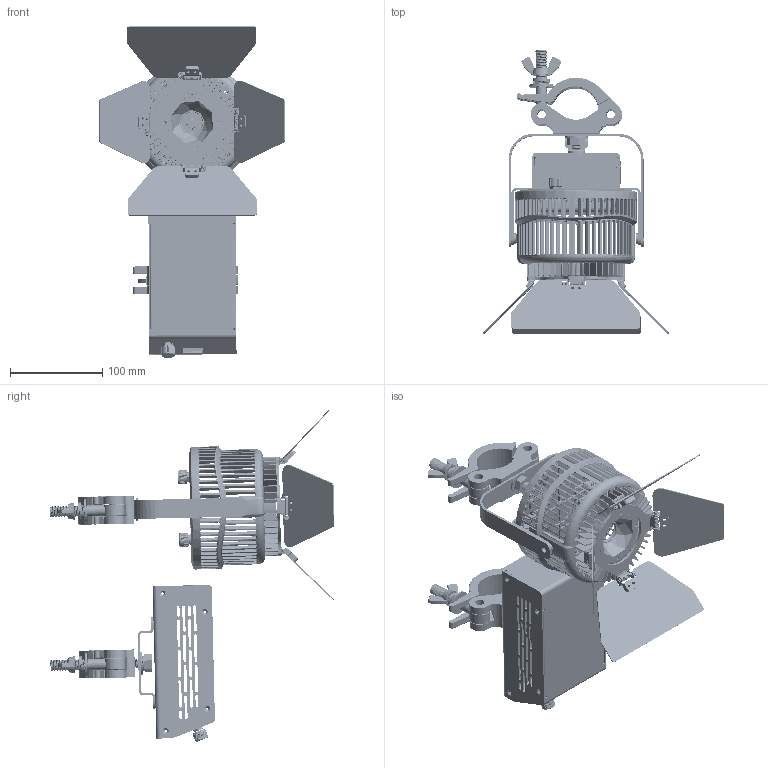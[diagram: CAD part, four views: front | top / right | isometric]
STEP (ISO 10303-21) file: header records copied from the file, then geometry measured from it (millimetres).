
FILE_DESCRIPTION (( 'STEP AP214' ), '1' );
FILE_NAME ('W500BD-CLP-PSX.STEP', '2024-02-01T20:11:18', ( '' ), ( '' ), 'SwSTEP 2.0', 'SolidWorks 2022', '' );
FILE_SCHEMA (( 'AUTOMOTIVE_DESIGN' ));
Length unit declared in the file: millimetre
Products named in the file (47): 5022398-XXX_A1_Plug for W Series, 19x10x9.4mm_-002(Black); 5120540-XXX_A1_Rear Panel, OD=133, T=13.65mm, W-Series_5120531-001 W500; 5020919-XXX_A5_Spacer, Pitch 6.0, Light Shielding, Barn Door___; 5022447-XXX_A2_W Series, 15F YOKE PART-B, 146.2x122.5x20mm___; 5020897-2010216520_ _Helical Spring Washer Customized___; 5022452-001_A3_Reflector Sink Holder, D108x14.35(H)mm (-002 is White)_-001(Black); 5120531-XXX_A4_Assembly BOM, Light Mounting Type for Yoke_TEX; 5022432-XXX_A2_250W Power Box Cover (TEX-PSX TYPE), 165x92x62.5(H)mm___; 5022358-1051452003_ _Wave Spring Washer, ID10.5 OD14.5 H2.0 T0.3, Black___; 5022341-XXX_A1_Minor Leaf of 3 inch Barndoor, L96, W77, T1.1___; 5021948_A1_Narrow Reflector, OD=54, T=15.6MM___; 5022445-XXX_A1_DC Plug for W Series, D=12mm_-002(Black); 62280-1363006_ _SCREW, M3x6mmL, PAN HEAD TORX WITH THREAD LOCK___; 5022693-XXX_A1_Bracket, 98.85x25x17.5, T=2.5mm___; 62280-647A030_ _SCREW, M10xP1.5 L30mm_Original; 5022427-XXX_A4_250W Power Box FRAME (TG&TEX&CLP TYPE), 165x95x64mm___; 5020734-XXX_A3_Spacer, Hinge, Barn Door_-001_Black; 5022340-XXX_A1_Major Leaf of 3 inch Barndoor, L140, W77, T1.1___; 5022185_A3_Frame, T=1.5mm AL5052 Black, 24x20x65.15mm___; 5120625-XXX_A1_Aluminum lamp hook processing square hole_For 5120625-XXX; 5120539-XXX_A1_Housing, OD=133, ID=121, T=78.1mm, For Reflector, Without Logo___; 5020893-3211020005_ _Flat Washer Customized, Nylon Black, ID11mm OD20mm T0.5mm___; 62280-231A030_ _SCREW, M10xP1.5 L30mm_Original; 62280-1343006_ _SCREW, PAN HEAD TROX W-THD LOCK, SUS-410, BLACK, M3xL6mm___; 5120561_A1_Frame, T=1.5mm AL5052 Black, 17.5x20x65.15mm___; 5120529-XXX_A1_Assembly BOM, W500 Light Engine_Finish; 5022348-104_ _Toothed Washer Series, M3___; 5021926-XXX_A2_KNOB, 18T, OD=14.9, ID=6, L=10MM_C1; 5021416_A1_Hex Nut, M10xP1.5, T8 SUS___; 5021287_A2_Toothed Lock Washer M6, OD11 ID6.4 T0.55, SUS___; 5120530-XXX_A1_Assembly BOM, W500 Reflector Type_Reflector - 55D-BD; 5020893-2010525020_ _Flat Washer, M10, ID10.5 OD25.0, T2 SUS 304___; 5020655-011_A4_Hinge, Assembly, Barndoor Video Light, Pitch6.0, Black_01; 5020757-002_A2_VR Washer, Kessil A360 Aquarium Light___; 5020655-012_A4_Hinge, Assembly, Barndoor Video Light, Pitch7.4, Black_01; 5020757-001_A1_VR Nut, Kessil A360 Aquarium Light___; W500BD-CLP-PSX; 5022189_A1_Plate, OD=48, ID=23, T=2.0mm___; 62432-11100100140040_ _Hex Nuts Customized, M10 P1.0 S14 T4 W-Zinc___; 5021736-006_A2_Aluminum Hook, M10, Black_For W500-CLP-PS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
Assembly tree (70 placements, depth 4):
  W500BD-CLP-PSX
    5120519-XXX_A3_Assembly BOM, Kessil W500 Power Box_TON(US)-PS
      5022427-XXX_A4_250W Power Box FRAME (TG&TEX&CLP TYPE), 165x95x64mm___
      5021736-006_A2_Aluminum Hook, M10, Black_For W500-CLP-PS
      62280-231A030_ _SCREW, M10xP1.5 L30mm_Original
      5022693-XXX_A1_Bracket, 98.85x25x17.5, T=2.5mm___
      5020893-2010525020_ _Flat Washer, M10, ID10.5 OD25.0, T2 SUS 304___
      5020897-2010216520_ _Helical Spring Washer Customized___
      5021416_A1_Hex Nut, M10xP1.5, T8 SUS___
      5022432-XXX_A2_250W Power Box Cover (TEX-PSX TYPE), 165x92x62.5(H)mm___
      5020757-002_A2_VR Washer, Kessil A360 Aquarium Light___
      5020757-001_A1_VR Nut, Kessil A360 Aquarium Light___
      5021926-XXX_A2_KNOB, 18T, OD=14.9, ID=6, L=10MM_C1
    5010177-XXX_A2_Assembly BOM, Kessil W500_55D-BD-[TEX]
      5120529-XXX_A1_Assembly BOM, W500 Light Engine_Finish
        5120540-XXX_A1_Rear Panel, OD=133, T=13.65mm, W-Series_5120531-001 W500
        5022398-XXX_A1_Plug for W Series, 19x10x9.4mm_-002(Black)
        5022445-XXX_A1_DC Plug for W Series, D=12mm_-002(Black)
        5022185_A3_Frame, T=1.5mm AL5052 Black, 24x20x65.15mm___
        5120561_A1_Frame, T=1.5mm AL5052 Black, 17.5x20x65.15mm___
        5022348-104_ _Toothed Washer Series, M3___  x2
        62280-1313006_ _SCREW, M3x6mmL, PAN HEAD TORX WITH THREAD LOCK___  x4
        5021924_A2_BOLT SCREW, M3.0, L=19.2MM___  x2
        5020757-002_A2_VR Washer, Kessil A360 Aquarium Light___  x2
        5020757-001_A1_VR Nut, Kessil A360 Aquarium Light___  x2
        5021926-XXX_A2_KNOB, 18T, OD=14.9, ID=6, L=10MM_C1  x2
        62280-1363006_ _SCREW, M3x6mmL, PAN HEAD TORX WITH THREAD LOCK___  x2
      5120530-XXX_A1_Assembly BOM, W500 Reflector Type_Reflector - 55D-BD
        5120539-XXX_A1_Housing, OD=133, ID=121, T=78.1mm, For Reflector, Without Logo___
        5022189_A1_Plate, OD=48, ID=23, T=2.0mm___
        62280-1343006_ _SCREW, PAN HEAD TROX W-THD LOCK, SUS-410, BLACK, M3xL6mm___  x2
        5022452-001_A3_Reflector Sink Holder, D108x14.35(H)mm (-002 is White)_-001(Black)
        5021948_A1_Narrow Reflector, OD=54, T=15.6MM___
        5020655-011_A4_Hinge, Assembly, Barndoor Video Light, Pitch6.0, Black_01  x2
        5020919-XXX_A5_Spacer, Pitch 6.0, Light Shielding, Barn Door___  x2
        5022341-XXX_A1_Minor Leaf of 3 inch Barndoor, L96, W77, T1.1___  x2
        5020655-012_A4_Hinge, Assembly, Barndoor Video Light, Pitch7.4, Black_01  x2
        5020921-XXX_A5_Spacer, Pitch 7.4, Light Shielding, Barn Door___  x2
        5020734-XXX_A3_Spacer, Hinge, Barn Door_-001_Black  x2
        5022340-XXX_A1_Major Leaf of 3 inch Barndoor, L140, W77, T1.1___  x2
        5022667-XXX_A1_Holder, Barn Door Frame For W-Series, OD=107, T=3mm___
      5120531-XXX_A4_Assembly BOM, Light Mounting Type for Yoke_TEX
        5022447-XXX_A2_W Series, 15F YOKE PART-B, 146.2x122.5x20mm___
        5022446-XXX_A2_W Series, 15F YOKE PART-A, 140x62x18mm___
        5021287_A2_Toothed Lock Washer M6, OD11 ID6.4 T0.55, SUS___  x2
        5022358-1051452003_ _Wave Spring Washer, ID10.5 OD14.5 H2.0 T0.3, Black___
        5020893-3211020005_ _Flat Washer Customized, Nylon Black, ID11mm OD20mm T0.5mm___  x2
        62432-11100100140040_ _Hex Nuts Customized, M10 P1.0 S14 T4 W-Zinc___
        5120625-XXX_A1_Aluminum lamp hook processing square hole_For 5120625-XXX
        5020893-2010525020_ _Flat Washer, M10, ID10.5 OD25.0, T2 SUS 304___
        5021416_A1_Hex Nut, M10xP1.5, T8 SUS___
        62280-647A030_ _SCREW, M10xP1.5 L30mm_Original
Bounding box: 201.49 x 308.76 x 359.82 mm (x, y, z)
Volume: 525390.3 mm3; surface area: 501054.4 mm2
Topology: 104 solids, 104 shells, 8970 faces, 24491 edges, 15609 vertices
Faces by surface type: cylinder 3405, plane 3239, bspline 1177, cone 614, torus 491, sphere 44
Entity records: 347418 total; most frequent: CARTESIAN_POINT 160732, ORIENTED_EDGE 39608, DIRECTION 32887, EDGE_CURVE 19804, VERTEX_POINT 12596, AXIS2_PLACEMENT_3D 12223, LINE 8441, VECTOR 8441
